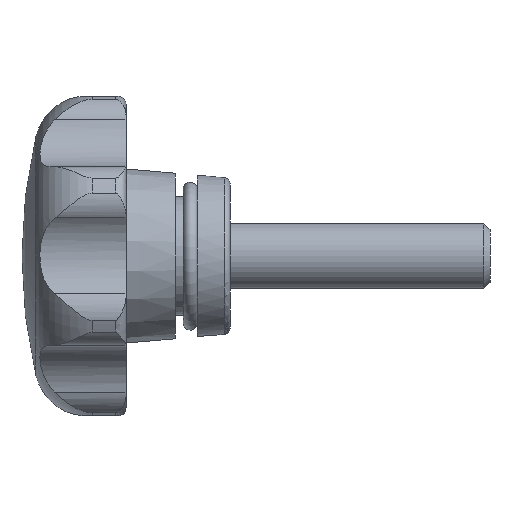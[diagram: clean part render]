
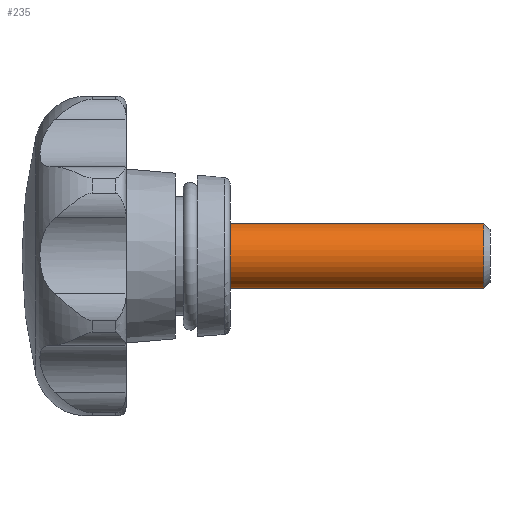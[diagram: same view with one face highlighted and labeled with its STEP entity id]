
A CAD part, left-side view. The second image highlights one B-rep face of the part: STEP entity #235.
In plain terms, the highlighted cylindrical face has radius 2.5 mm (diameter 5 mm), a full revolution.
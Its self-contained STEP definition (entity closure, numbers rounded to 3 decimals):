
#235 = ADVANCED_FACE( '', ( #466, #467 ), #468, .T. );
#466 = FACE_OUTER_BOUND( '', #798, .T. );
#467 = FACE_OUTER_BOUND( '', #799, .T. );
#468 = CYLINDRICAL_SURFACE( '', #800, 2.5 );
#798 = EDGE_LOOP( '', ( #1467 ) );
#799 = EDGE_LOOP( '', ( #1468 ) );
#800 = AXIS2_PLACEMENT_3D( '', #1469, #1470, #1471 );
#1467 = ORIENTED_EDGE( '', *, *, #2224, .F. );
#1468 = ORIENTED_EDGE( '', *, *, #2210, .T. );
#1469 = CARTESIAN_POINT( '', ( 0., -20., 0. ) );
#1470 = DIRECTION( '', ( 0., 1., 0. ) );
#1471 = DIRECTION( '', ( 0., 0., -1. ) );
#2210 = EDGE_CURVE( '', #2674, #2674, #2675, .T. );
#2224 = EDGE_CURVE( '', #2696, #2696, #2697, .T. );
#2674 = VERTEX_POINT( '', #4009 );
#2675 = CIRCLE( '', #4010, 2.5 );
#2696 = VERTEX_POINT( '', #4033 );
#2697 = CIRCLE( '', #4034, 2.5 );
#4009 = CARTESIAN_POINT( '', ( 0., 0., -2.5 ) );
#4010 = AXIS2_PLACEMENT_3D( '', #4639, #4640, #4641 );
#4033 = CARTESIAN_POINT( '', ( 0., -19.51, -2.5 ) );
#4034 = AXIS2_PLACEMENT_3D( '', #4674, #4675, #4676 );
#4639 = CARTESIAN_POINT( '', ( 0., 0., 0. ) );
#4640 = DIRECTION( '', ( 0., -1., 0. ) );
#4641 = DIRECTION( '', ( 0., 0., -1. ) );
#4674 = CARTESIAN_POINT( '', ( 0., -19.51, 0. ) );
#4675 = DIRECTION( '', ( 0., -1., 0. ) );
#4676 = DIRECTION( '', ( 0., 0., -1. ) );
